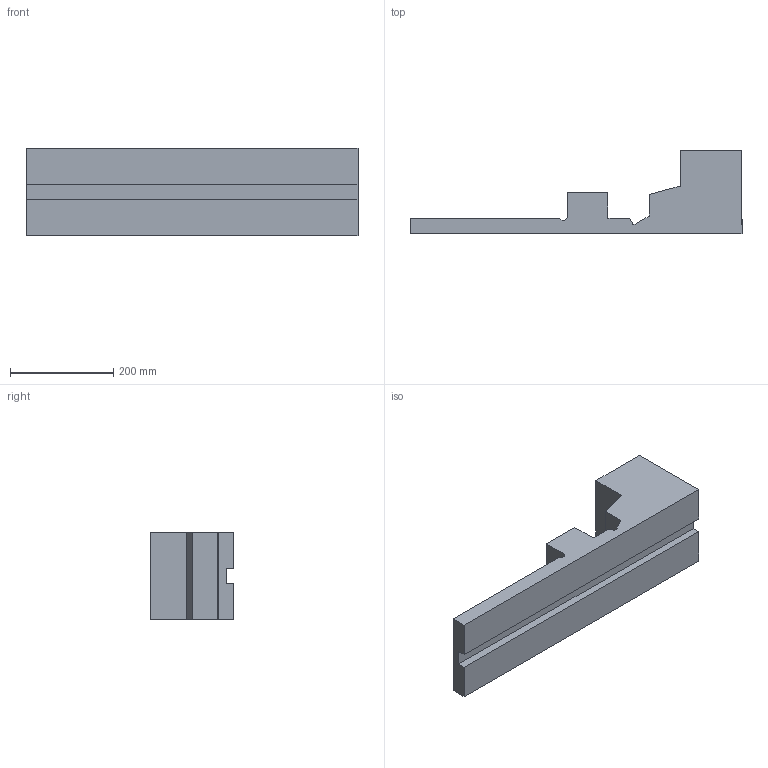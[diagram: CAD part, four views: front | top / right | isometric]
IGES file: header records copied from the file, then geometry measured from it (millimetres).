
Start section: SolidWorks IGES file using analytic representation for surfaces
Global section: file name: C:\Documents and Settings\PHILIPPE\Mes documents\DAO-FAO\esprit\Machines\Tour euroturn gris 2\Fichiers-sw2006\Axe-Z-euroturn-gris-2.IGS; native system: SolidWorks 2006 by SolidWorks Corporation; preprocessor: SolidWorks 2006 by SolidWorks Corporation; author: PHILIPPE; date: 070519.122849; units: millimetre
Bounding box: 644 x 162.54 x 170 mm (x, y, z)
Surface area: 393248.1 mm2 (no closed solid volume)
Topology: 0 solids, 0 shells, 24 faces, 132 edges, 132 vertices
Faces by surface type: bspline 24
